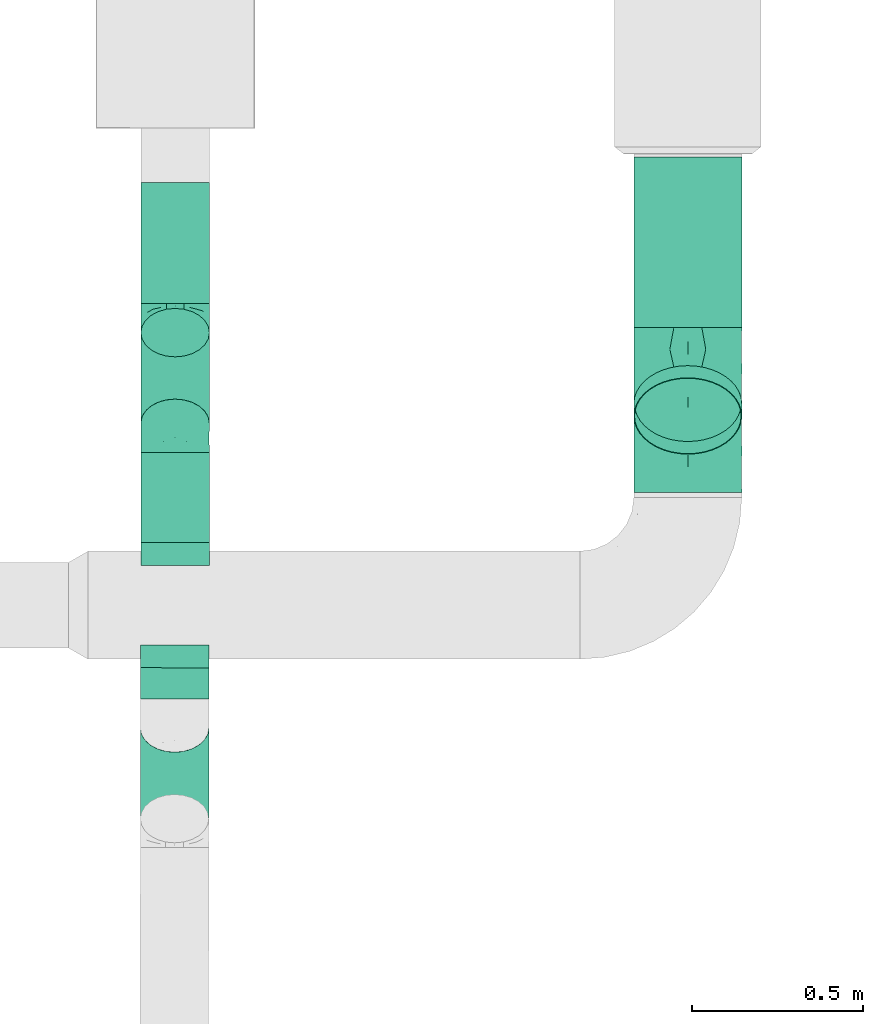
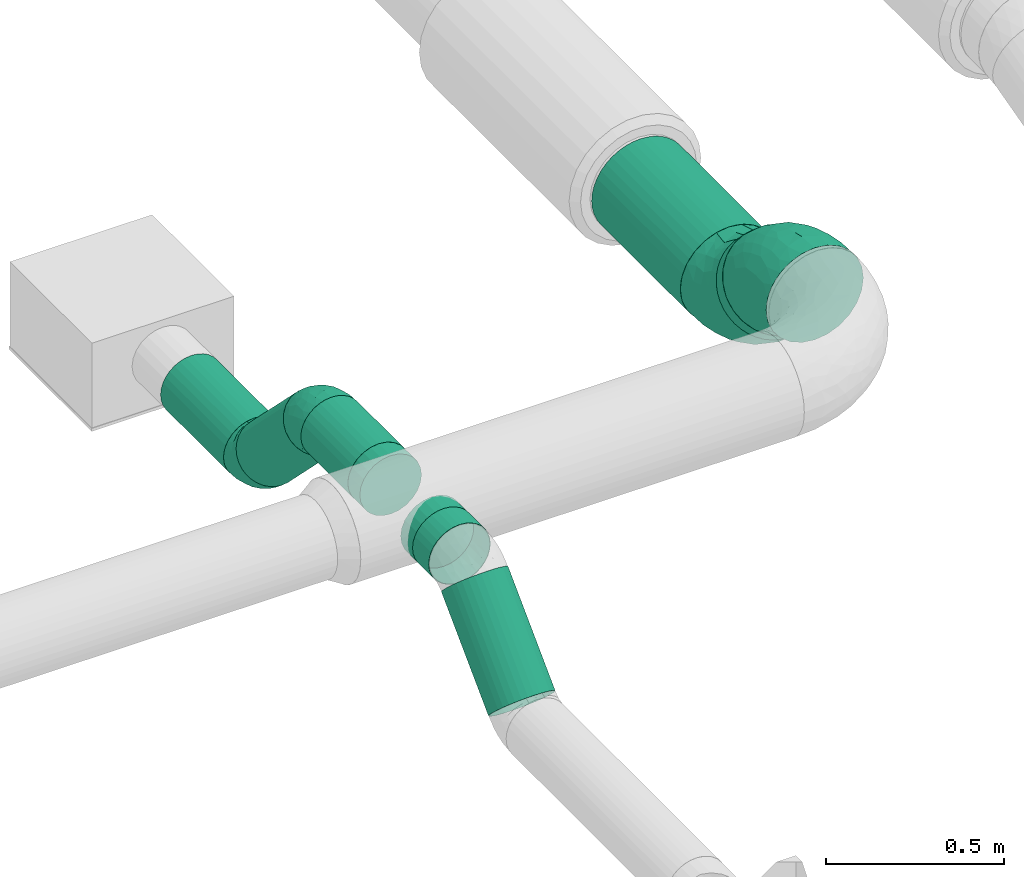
# One storey, part 9 of 63: 7 flow segments, 6 flow fittings.
"""IFC2X3 building model written with IfcOpenShell, lengths in millimetres."""

from ifc_helpers import new_model, entity, si_unit, converted_unit, derived_unit, direction, frame, origin_with_axes, origin_2d_with_axis, place, context, subcontext, project, spatial, hollow_circle, extrude, open_shell, surface_model, source, transform, mapped, type_object, element, save


model = new_model("IFC2X3")

# Units and contexts
model_context = context("Model", 3, precision=0.01, world=frame((0.0, 4.29681676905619e-09, 0.0)), true_north=direction((4.01073788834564e-13, 1.0)))
plan_context = context("Plan", 3, precision=0.01, world=frame((0.0, 4.29681676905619e-09, 0.0)), true_north=direction((4.01073788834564e-13, 1.0)))
body_context = subcontext(model_context, "Body", "Model", "MODEL_VIEW")
ifc_project = project(units=[converted_unit("PLANEANGLEUNIT", "DEGREE", entity("IfcPositiveLengthMeasure", 0.0174532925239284), si_unit("PLANEANGLEUNIT", "RADIAN"), dimensions=[0, 0, 0, 0, 0, 0, 0]), si_unit("AREAUNIT", "SQUARE_METRE"), si_unit("LENGTHUNIT", "METRE", prefix="MILLI"), si_unit("MASSUNIT", "GRAM", prefix="KILO"), si_unit("POWERUNIT", "WATT"), si_unit("PRESSUREUNIT", "PASCAL"), si_unit("FORCEUNIT", "NEWTON", prefix="KILO"), si_unit("ELECTRICVOLTAGEUNIT", "VOLT"), si_unit("ELECTRICCURRENTUNIT", "AMPERE"), si_unit("THERMODYNAMICTEMPERATUREUNIT", "DEGREE_CELSIUS"), si_unit("TIMEUNIT", "SECOND"), si_unit("VOLUMEUNIT", "CUBIC_METRE"), derived_unit("LINEARVELOCITYUNIT", [(si_unit("LENGTHUNIT", "METRE"), 1), (si_unit("TIMEUNIT", "SECOND"), -1)]), derived_unit("VOLUMETRICFLOWRATEUNIT", [(si_unit("VOLUMEUNIT", "CUBIC_METRE"), 1), (si_unit("TIMEUNIT", "SECOND"), -1)]), derived_unit("THERMALTRANSMITTANCEUNIT", [(si_unit("POWERUNIT", "WATT"), 1), (si_unit("THERMODYNAMICTEMPERATUREUNIT", "KELVIN"), -1), (si_unit("AREAUNIT", "SQUARE_METRE"), -1)]), derived_unit("SOUNDPRESSUREUNIT", [(si_unit("PRESSUREUNIT", "PASCAL"), 1)])], contexts=[model_context, plan_context])

# Site, building, storey
site_placement = place(None, frame((0.0, -4.29681676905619e-09, 0.0), z_axis=(0.0, 0.0, 1.0), x_axis=(1.0, 0.0, 0.0)))
site = spatial("IfcSite", under=ifc_project, at=site_placement, CompositionType="ELEMENT")
building_placement = place(site_placement, frame((0.0, 4.29681676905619e-09, 0.0), z_axis=(0.0, 0.0, 1.0), x_axis=(1.0, 0.0, 0.0)))
building = spatial("IfcBuilding", under=site, at=building_placement, Name="mc-building", CompositionType="ELEMENT")
storey_placement = place(building_placement, frame((0.0, 0.0, 210900.0), z_axis=(0.0, 0.0, 1.0), x_axis=(1.0, 0.0, 0.0)))
storey = spatial("IfcBuildingStorey", under=building, at=storey_placement, Name="Nivå F", CompositionType="ELEMENT", Elevation=210900.0)

# Flow fittings
duct_fitting_type_1 = type_object("IfcDuctFittingType", Name="magicirc_elbow_short_001", PredefinedType="BEND")
shared_shape_1 = source(origin_with_axes(), body_context, "Body", "SurfaceModel", [
    surface_model("IfcShellBasedSurfaceModel", [(-49.70563, 50.0, -86.60254), (-49.70563, 25.8819, -96.59259), (-49.70563, 70.71068, -70.71068), (-49.70563, 96.59259, -25.8819), (-49.70563, 86.60254, -50.0), (-49.70563, 86.60254, 50.0), (-49.70563, 96.59259, 25.8819), (-49.70563, 25.8819, 96.59259), (-49.70563, 50.0, 86.60254), (-49.70563, 70.71068, 70.71068), (-49.70563, -25.8819, 96.59259), (-49.70563, 0.0, 100.0), (-49.70563, 100.0, 0.0), (12.37742, -29.88175, 90.64522), (37.12404, -18.70607, 89.97421), (4.68854, -11.31914, 97.51858), (-15.97928, 38.57739, 94.78597), (-33.08073, 79.86395, 64.3352), (-38.64634, 93.30051, 41.23913), (-23.56301, 62.37217, 82.35825), (22.87885, -55.23445, 71.73393), (28.07272, 6.98114, 98.51039), (7.39001, 23.69873, 99.67584), (-26.09006, 96.38443, 50.0), (16.84592, 53.44845, 96.59259), (-33.15408, 103.44845, 25.8819), (-0.20815, 70.50252, 86.60254), (-49.70563, 0.0, -100.0), (-21.98306, 11.532, -99.67584), (4.68854, -11.31915, -97.51858), (6.95764, 23.32334, -99.68416), (-15.97928, 38.57738, -94.78597), (-0.20815, 70.50252, -86.60254), (16.84592, 53.44845, -96.59259), (60.35471, -50.93633, -55.32131), (28.49827, -69.68635, -52.39492), (22.87886, -55.23445, -71.73393), (28.07272, 6.98113, -98.51039), (-49.70565, -96.59259, -25.8819), (-49.70565, -100.0, 0.0), (-49.70565, -86.60254, -50.0), (-14.85282, 85.14719, -70.71068), (-26.09007, 96.38443, -50.0), (-33.1541, 103.44846, -25.8819), (-24.86597, -97.5535, 0.0), (-6.78576, -95.77276, 0.0), (-18.13184, -91.89202, 33.47276), (-13.02349, -39.47786, 89.97421), (-18.231, -62.02139, 76.22982), (-21.41192, 11.5723, 99.68416), (-49.70565, -86.60254, 50.0), (-49.70565, -96.59259, 25.8819), (22.49479, -82.45996, 31.38069), (50.71647, -68.4272, 35.42053), (29.12437, -69.42701, 52.3949), (13.84949, -89.51313, 0.0), (34.48473, -83.25349, 0.0), (12.37743, -29.88176, -90.64522), (-13.02349, -39.47786, -89.97421), (-42.05198, 101.52241, 0.0), (-35.56351, 105.85786, 0.0), (-38.64635, 93.30051, -41.23913), (37.12406, -18.70605, -89.97421), (1.72867, -92.12319, -18.52111), (-33.08075, 79.86395, -64.3352), (-27.44224, 60.76535, -82.35825), (-24.78683, -14.914, 98.51039), (-49.70565, -70.71068, -70.71068), (-6.65981, -78.69465, -55.32131), (-24.78683, -14.91401, -98.51039), (-49.70563, -50.0, -86.60254), (-49.70563, -25.8819, -96.59259), (-49.70563, -70.71068, 70.71068), (-49.70563, -50.0, 86.60254), (35.14719, 35.1472, -100.0), (103.44846, -33.15406, 25.8819), (96.38444, -26.09004, -50.0), (53.44846, 16.84593, -96.59259), (85.14719, -14.8528, -70.71068), (70.50253, -0.20814, -86.60254), (105.85787, -35.56347, 0.0), (103.44846, -33.15406, -25.8819), (-14.85282, 85.14719, 70.71068), (85.14719, -14.8528, 70.71068), (96.38444, -26.09004, 50.0), (70.50253, -0.20814, 86.60254), (53.44846, 16.84593, 96.59259), (35.14719, 35.1472, 100.0), (-6.6598, -78.69465, 55.32131), (42.49431, -77.9055, 18.20626), (72.51983, -62.9233, 0.0), (86.56365, -51.39784, 0.0), (63.91858, -66.36329, 18.52111), (77.79861, -52.15632, 33.47277), (60.35471, -50.93634, 55.32131), (56.74699, -30.96449, 76.22981), (53.50228, -73.08841, 0.0), (-18.13182, -91.89201, -33.47277), (77.79861, -52.15632, -33.47277), (-18.23098, -62.02139, -76.22982), (42.40177, -74.21421, -31.38069), (12.52339, -84.24729, -35.42053), (25.03951, -85.13552, -18.20627), (56.747, -30.96448, -76.22982)], [open_shell([[[0, 1, 2]], [[3, 4, 2]], [[5, 6, 7]], [[7, 8, 9]], [[5, 7, 9]], [[10, 11, 7]], [[6, 12, 3]], [[13, 14, 15]], [[8, 7, 16]], [[17, 5, 9]], [[6, 5, 18]], [[19, 8, 16]], [[13, 20, 14]], [[15, 21, 22]], [[17, 23, 18]], [[16, 22, 24]], [[25, 18, 23]], [[24, 26, 16]], [[26, 19, 16]], [[8, 19, 9]], [[19, 17, 9]], [[14, 21, 15]], [[6, 18, 25]], [[17, 18, 5]], [[27, 1, 28]], [[29, 28, 30]], [[31, 28, 1]], [[0, 31, 1]], [[32, 33, 31]], [[31, 33, 30]], [[30, 28, 31]], [[34, 35, 36]], [[30, 37, 29]], [[38, 39, 40]], [[41, 42, 43]], [[44, 45, 46]], [[47, 48, 20]], [[15, 22, 49]], [[46, 50, 51]], [[46, 51, 44]], [[52, 53, 54]], [[49, 22, 16]], [[51, 39, 44]], [[46, 55, 52]], [[15, 47, 13]], [[20, 13, 47]], [[55, 46, 45]], [[55, 56, 52]], [[57, 36, 58]], [[59, 60, 43]], [[43, 42, 61]], [[62, 57, 29]], [[45, 44, 63]], [[42, 41, 64]], [[65, 64, 41]], [[64, 61, 42]], [[55, 45, 63]], [[44, 39, 38]], [[36, 57, 62]], [[58, 29, 57]], [[15, 66, 47]], [[49, 66, 15]], [[67, 68, 40]], [[29, 69, 28]], [[58, 69, 29]], [[27, 67, 1]], [[40, 2, 1]], [[2, 40, 3]], [[70, 67, 71]], [[67, 27, 71]], [[40, 1, 67]], [[40, 39, 3]], [[39, 6, 3]], [[7, 6, 39]], [[10, 7, 39]], [[72, 73, 50]], [[51, 50, 73]], [[73, 10, 51]], [[51, 10, 39]], [[74, 75, 76]], [[41, 33, 32]], [[33, 75, 74]], [[33, 41, 75]], [[77, 78, 79]], [[77, 74, 78]], [[76, 80, 81]], [[78, 74, 76]], [[76, 75, 80]], [[41, 43, 23]], [[25, 23, 43]], [[23, 24, 41]], [[82, 26, 24]], [[82, 24, 23]], [[41, 24, 75]], [[75, 83, 84]], [[83, 75, 85]], [[75, 86, 85]], [[75, 24, 86]], [[24, 87, 86]], [[43, 60, 25]], [[88, 50, 46]], [[88, 52, 54]], [[73, 48, 47]], [[72, 50, 88]], [[66, 11, 10]], [[7, 11, 49]], [[10, 73, 47]], [[17, 19, 82]], [[16, 7, 49]], [[73, 72, 48]], [[56, 89, 52]], [[59, 6, 25]], [[90, 91, 92]], [[59, 12, 6]], [[53, 93, 94]], [[66, 49, 11]], [[88, 46, 52]], [[72, 88, 48]], [[86, 21, 14]], [[94, 84, 83]], [[85, 86, 14]], [[93, 84, 94]], [[83, 85, 95]], [[14, 95, 85]], [[93, 91, 75]], [[86, 87, 21]], [[53, 92, 93]], [[60, 59, 25]], [[87, 24, 22]], [[95, 20, 94]], [[82, 19, 26]], [[84, 93, 75]], [[20, 95, 14]], [[89, 96, 92]], [[94, 83, 95]], [[20, 48, 88]], [[82, 23, 17]], [[54, 94, 20]], [[94, 54, 53]], [[88, 54, 20]], [[47, 66, 10]], [[22, 21, 87]], [[92, 53, 89]], [[53, 52, 89]], [[96, 89, 56]], [[96, 90, 92]], [[93, 92, 91]], [[91, 80, 75]], [[78, 76, 34]], [[77, 79, 62]], [[69, 71, 27]], [[4, 61, 64]], [[32, 65, 41]], [[31, 0, 65]], [[0, 2, 65]], [[33, 74, 30]], [[61, 3, 43]], [[68, 97, 40]], [[98, 81, 91]], [[97, 44, 38]], [[99, 70, 58]], [[100, 101, 35]], [[99, 67, 70]], [[40, 97, 38]], [[101, 97, 68]], [[70, 71, 58]], [[102, 55, 63]], [[99, 36, 68]], [[56, 102, 100]], [[3, 12, 59]], [[68, 67, 99]], [[32, 31, 65]], [[34, 100, 35]], [[69, 58, 71]], [[4, 64, 2]], [[62, 29, 37]], [[36, 62, 103]], [[62, 79, 103]], [[98, 76, 81]], [[74, 77, 37]], [[98, 34, 76]], [[64, 65, 2]], [[98, 91, 90]], [[101, 63, 97]], [[100, 34, 98]], [[79, 78, 103]], [[37, 30, 74]], [[36, 103, 34]], [[43, 3, 59]], [[36, 99, 58]], [[78, 34, 103]], [[35, 68, 36]], [[97, 63, 44]], [[68, 35, 101]], [[28, 69, 27]], [[62, 37, 77]], [[63, 101, 102]], [[101, 100, 102]], [[98, 96, 100]], [[55, 102, 56]], [[3, 61, 4]], [[81, 80, 91]], [[96, 98, 90]], [[96, 56, 100]]])]),
])
for number, where, z_axis, x_axis, name in (
    (1, (526902.98628, 446405.40917, 3935.01183999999), (-0.999999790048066, 0.000647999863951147, 0.0), (-0.000647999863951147, -0.999999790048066, 0.0), "magicirc_elbow_short_001"),
    (2, (526902.75586, 446070.42116, 4270.0), (0.999999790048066, 3.79470760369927e-19, 0.000647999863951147), (-0.000458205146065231, -0.707106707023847, 0.707106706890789), "magicirc_elbow_short_001"),
):
    element("IfcFlowFitting", number, at=place(storey_placement, frame(where, z_axis=z_axis, x_axis=x_axis)), inside=storey, type_object=duct_fitting_type_1, Name=name, context=body_context, shape_type="MappedRepresentation", body=[
        mapped(shared_shape_1, transform((0.0, 0.0, 0.0), scale=1.0)),
    ])
duct_fitting_type_2 = type_object("IfcDuctFittingType", Name="magicirc_elbow_full_radius_001", PredefinedType="BEND")
shared_shape_2 = source(origin_with_axes(), body_context, "Body", "SurfaceModel", [
    surface_model("IfcShellBasedSurfaceModel", [(-130.47727, 78.75, -136.39901), (-130.47727, 40.764, -152.13332), (-130.47727, 0.0, -157.5), (-130.47727, 136.39901, -78.75), (-130.47727, -40.764, -152.13332), (-130.47727, 111.36932, -111.36932), (-130.47727, -157.5, 0.0), (-130.47727, -152.13332, 40.764), (-130.47727, -111.36932, -111.36932), (-130.47727, -152.13332, -40.764), (-130.47727, -78.75, -136.39901), (-130.47727, -136.39901, -78.75), (-130.47727, 152.13332, -40.764), (-130.47727, 157.5, 0.0), (-130.47727, 152.13332, 40.764), (-130.47727, 136.39901, 78.75), (-130.47727, 111.36932, 111.36932), (-130.47727, 78.75, 136.39901), (-130.47727, 40.764, 152.13332), (-130.47727, -111.36932, 111.36932), (-130.47727, -78.75, 136.39901), (-130.47727, -136.39901, 78.75), (-130.47727, 0.0, 157.5), (-130.47727, -40.764, 152.13332), (92.26137, 92.26137, -157.5), (63.43686, 121.08587, -152.13332), (36.57671, 147.94602, -136.39901), (121.08587, 63.43686, -152.13332), (-4.18729, 188.71003, -78.75), (13.51136, 171.01136, -111.36932), (13.51136, 171.01136, 111.36932), (203.63068, -19.10795, 0.0), (171.01136, 13.51136, -111.36932), (147.94602, 36.57671, -136.39901), (199.83586, -15.31314, -40.764), (188.71003, -4.18729, -78.75), (-15.31314, 199.83586, -40.764), (-19.10795, 203.63068, 0.0), (-15.31314, 199.83586, 40.764), (-4.18729, 188.71003, 78.75), (199.83586, -15.31314, 40.764), (36.57671, 147.94602, 136.39901), (63.43686, 121.08587, 152.13332), (188.71003, -4.18729, 78.75), (147.94602, 36.57671, 136.39901), (171.01136, 13.51136, 111.36932), (92.26137, 92.26137, 157.5), (121.08587, 63.43686, 152.13332), (-90.31824, -62.89797, 143.44996), (-72.27875, -23.25773, 154.94979), (-56.56199, -151.68274, 0.0), (-70.62575, -144.42219, 53.02885), (-91.264, -154.41385, 0.0), (-89.63351, -126.15228, 91.7184), (-69.33391, -97.41309, 120.07653), (-16.38997, -97.78481, 109.44527), (-40.47078, -60.22037, 140.65724), (-39.28412, -122.29161, 86.38044), (152.5836, -25.82267, 91.71841), (-81.87175, 17.75633, 156.89351), (67.55449, 34.66309, 154.94979), (45.33645, 70.44769, 156.89351), (19.44546, -106.17047, 85.82993), (-9.83286, -133.58825, 49.47276), (46.24417, -111.64335, 57.07322), (101.41402, -87.50829, 49.47275), (152.06186, -52.18197, 53.02885), (114.25128, -58.69516, 86.38044), (-3.65855, 130.02911, 128.74157), (-83.53697, 125.9293, 101.78766), (-89.35748, 94.53145, 128.74157), (-72.45165, 58.76305, 148.57173), (-42.27491, 102.06066, 132.90326), (-34.80211, 144.57687, 102.52932), (71.19939, -13.96507, 140.65724), (20.14269, -6.20589, 152.39698), (-29.92035, 72.23411, 148.58687), (9.6793, 92.78281, 148.57173), (-66.76397, 161.18248, 52.45275), (-89.71327, 162.86668, 0.0), (-51.72727, 178.601, 0.0), (115.64225, -86.63056, 0.0), (49.78325, -120.1874, 0.0), (84.03324, -106.00058, 0.0), (66.8953, -111.32944, 29.0342), (66.95497, -86.10086, 85.82994), (108.34022, 19.38906, 143.44996), (21.01822, -47.55911, 136.8648), (32.83795, -79.27786, 110.97397), (80.23571, -55.72758, 111.31288), (-99.24246, 146.38754, 64.87357), (173.72046, -44.65369, 0.0), (117.90794, -19.85497, 120.07653), (-11.3948, 27.50947, 157.45362), (-66.77072, 146.456, 81.42725), (-35.48483, 168.38694, 71.56288), (-24.4967, -27.0546, 151.48903), (-44.47795, 2.85402, 157.2553), (29.43256, 33.46875, 157.2553), (26.71905, -127.11627, 31.92385), (-20.51436, -143.02847, 0.0), (147.25126, -67.26053, 0.0), (15.53326, -134.3742, 0.0), (-89.35749, 94.53145, -128.74157), (31.41968, -126.02392, -29.0342), (13.53818, -108.22682, -85.82992), (-17.32987, -96.14058, -111.31287), (32.83796, -79.27786, -110.97396), (108.34022, 19.38906, -143.44996), (67.55449, 34.66308, -154.94979), (-72.45166, 58.76305, -148.57173), (9.67929, 92.78279, -148.57174), (-81.87176, 17.75632, -156.89351), (-66.76398, 161.18248, -52.45275), (-93.97599, 144.15911, -71.56287), (-77.62248, 126.84009, -102.52932), (-42.27492, 102.06066, -132.90325), (-40.47078, -60.22037, -140.65723), (-72.27875, -23.25774, -154.94979), (-9.85481, -18.63127, -152.39698), (-70.62574, -144.42219, -53.02885), (-89.63351, -126.15228, -91.7184), (-29.92036, 72.23411, -148.58687), (-44.47795, 2.85401, -157.2553), (-69.33391, -97.41309, -120.07653), (46.24419, -111.64335, -57.07321), (61.32383, -88.82388, -85.82992), (-90.31824, -62.89797, -143.44996), (152.06185, -52.18197, -53.02885), (101.41403, -87.50828, -49.47276), (114.25129, -58.69516, -86.38043), (18.76725, -48.49151, -136.86479), (-56.34601, 150.77405, -81.42725), (117.90794, -19.85498, -120.07653), (71.19939, -13.96508, -140.65723), (-9.83285, -133.58825, -49.47276), (-39.28411, -122.29161, -86.38043), (-29.97591, 148.11501, -101.78766), (-33.33661, 173.68664, -64.87357), (-3.65856, 130.02911, -128.74157), (152.5836, -25.82267, -91.7184), (45.33645, 70.44768, -156.89351), (80.73375, -57.55486, -109.44526), (-11.3948, 27.50946, -157.45362), (36.45227, -1.80872, -151.48903), (29.43256, 33.46875, -157.2553), (70.99154, -108.778, -31.92385)], [open_shell([[[0, 1, 2]], [[3, 0, 2]], [[4, 3, 2]], [[5, 0, 3]], [[3, 6, 7]], [[8, 9, 10]], [[4, 10, 6]], [[11, 9, 8]], [[6, 10, 9]], [[6, 3, 4]], [[7, 12, 3]], [[13, 7, 14]], [[15, 14, 16]], [[17, 16, 7]], [[7, 16, 14]], [[7, 18, 17]], [[19, 20, 21]], [[7, 21, 22]], [[23, 22, 20]], [[21, 20, 22]], [[22, 18, 7]], [[12, 7, 13]], [[24, 25, 26]], [[27, 24, 26]], [[26, 28, 27]], [[28, 26, 29]], [[28, 30, 31]], [[27, 32, 33]], [[32, 27, 34]], [[32, 34, 35]], [[34, 27, 31]], [[27, 28, 31]], [[28, 36, 37]], [[28, 38, 30]], [[30, 38, 39]], [[40, 30, 41]], [[30, 40, 31]], [[41, 42, 43]], [[43, 44, 45]], [[43, 40, 41]], [[44, 46, 47]], [[46, 44, 43]], [[42, 46, 43]], [[38, 28, 37]], [[48, 49, 23]], [[50, 51, 52]], [[19, 21, 53]], [[54, 55, 56]], [[53, 51, 57]], [[45, 58, 43]], [[54, 20, 19]], [[59, 22, 49]], [[60, 46, 61]], [[19, 53, 54]], [[23, 20, 48]], [[62, 63, 64]], [[65, 66, 67]], [[41, 30, 68]], [[16, 69, 15]], [[70, 71, 72]], [[21, 7, 51]], [[69, 72, 73]], [[18, 22, 59]], [[74, 60, 75]], [[72, 76, 77]], [[14, 78, 79]], [[76, 72, 71]], [[79, 13, 14]], [[80, 78, 38]], [[46, 42, 61]], [[70, 16, 17]], [[66, 65, 81]], [[82, 83, 84]], [[64, 85, 62]], [[47, 86, 44]], [[23, 49, 22]], [[87, 74, 75]], [[86, 60, 74]], [[43, 66, 40]], [[88, 85, 89]], [[14, 15, 90]], [[66, 91, 40]], [[17, 18, 71]], [[44, 92, 45]], [[60, 47, 46]], [[66, 43, 58]], [[85, 88, 62]], [[51, 63, 57]], [[59, 93, 71]], [[79, 78, 80]], [[78, 94, 95]], [[37, 80, 38]], [[49, 96, 97]], [[38, 78, 95]], [[90, 69, 94]], [[39, 73, 30]], [[48, 54, 56]], [[68, 73, 72]], [[98, 60, 61]], [[77, 42, 41]], [[41, 68, 77]], [[55, 57, 62]], [[51, 7, 52]], [[92, 67, 58]], [[99, 63, 100]], [[60, 98, 75]], [[86, 92, 44]], [[74, 87, 89]], [[85, 65, 67]], [[71, 93, 76]], [[69, 16, 70]], [[90, 94, 78]], [[42, 77, 61]], [[93, 61, 77]], [[97, 59, 49]], [[71, 18, 59]], [[75, 93, 97]], [[87, 88, 89]], [[71, 70, 17]], [[69, 70, 72]], [[73, 68, 30]], [[77, 68, 72]], [[65, 83, 81]], [[99, 84, 64]], [[82, 84, 99]], [[84, 83, 65]], [[96, 87, 75]], [[55, 87, 56]], [[60, 86, 47]], [[92, 86, 74]], [[54, 48, 20]], [[49, 48, 56]], [[51, 53, 21]], [[54, 53, 57]], [[92, 58, 45]], [[66, 58, 67]], [[69, 90, 15]], [[78, 14, 90]], [[69, 73, 94]], [[95, 73, 39]], [[73, 95, 94]], [[38, 95, 39]], [[7, 6, 52]], [[91, 66, 101]], [[91, 31, 40]], [[93, 77, 76]], [[63, 99, 64]], [[101, 66, 81]], [[65, 64, 84]], [[51, 100, 63]], [[82, 99, 102]], [[65, 85, 64]], [[89, 67, 92]], [[67, 89, 85]], [[74, 89, 92]], [[55, 62, 88]], [[63, 62, 57]], [[55, 88, 87]], [[54, 57, 55]], [[61, 93, 98]], [[75, 98, 93]], [[49, 56, 96]], [[93, 59, 97]], [[87, 96, 56]], [[75, 97, 96]], [[100, 51, 50]], [[102, 99, 100]], [[103, 0, 5]], [[104, 82, 102]], [[105, 106, 107]], [[108, 109, 27]], [[0, 103, 110]], [[26, 25, 111]], [[13, 79, 12]], [[2, 1, 112]], [[12, 79, 113]], [[12, 113, 114]], [[115, 116, 103]], [[27, 109, 24]], [[117, 118, 119]], [[1, 0, 110]], [[120, 11, 121]], [[116, 122, 110]], [[120, 52, 9]], [[118, 123, 119]], [[124, 8, 10]], [[125, 105, 126]], [[127, 10, 4]], [[128, 129, 130]], [[117, 131, 106]], [[120, 9, 11]], [[118, 117, 127]], [[8, 121, 11]], [[113, 132, 114]], [[122, 116, 111]], [[79, 80, 113]], [[108, 133, 134]], [[80, 37, 36]], [[135, 120, 136]], [[29, 137, 28]], [[28, 138, 36]], [[118, 4, 2]], [[115, 137, 116]], [[139, 29, 26]], [[140, 32, 35]], [[112, 118, 2]], [[25, 24, 141]], [[3, 115, 5]], [[111, 116, 139]], [[35, 34, 128]], [[108, 27, 33]], [[133, 33, 32]], [[131, 117, 119]], [[138, 137, 132]], [[129, 125, 126]], [[10, 127, 124]], [[32, 140, 133]], [[130, 140, 128]], [[141, 24, 109]], [[128, 91, 101]], [[121, 124, 136]], [[123, 118, 112]], [[134, 133, 142]], [[120, 135, 100]], [[105, 107, 126]], [[141, 143, 111]], [[113, 80, 36]], [[142, 130, 126]], [[109, 144, 145]], [[128, 34, 91]], [[146, 129, 81]], [[105, 135, 136]], [[34, 31, 91]], [[137, 29, 139]], [[138, 132, 113]], [[1, 110, 112]], [[143, 112, 110]], [[145, 141, 109]], [[111, 25, 141]], [[119, 143, 145]], [[131, 107, 106]], [[115, 103, 5]], [[110, 103, 116]], [[111, 139, 26]], [[137, 139, 116]], [[135, 102, 100]], [[146, 104, 125]], [[82, 104, 146]], [[104, 102, 135]], [[144, 131, 119]], [[142, 131, 134]], [[118, 127, 4]], [[124, 127, 117]], [[133, 108, 33]], [[109, 108, 134]], [[128, 140, 35]], [[133, 140, 130]], [[124, 121, 8]], [[120, 121, 136]], [[137, 138, 28]], [[113, 36, 138]], [[137, 115, 132]], [[114, 115, 3]], [[115, 114, 132]], [[12, 114, 3]], [[52, 120, 50]], [[52, 6, 9]], [[111, 143, 122]], [[143, 110, 122]], [[104, 135, 125]], [[120, 100, 50]], [[125, 129, 146]], [[128, 81, 129]], [[82, 146, 83]], [[135, 105, 125]], [[106, 136, 124]], [[136, 106, 105]], [[117, 106, 124]], [[142, 126, 107]], [[129, 126, 130]], [[142, 107, 131]], [[133, 130, 142]], [[112, 143, 123]], [[119, 123, 143]], [[109, 134, 144]], [[143, 141, 145]], [[131, 144, 134]], [[119, 145, 144]], [[81, 128, 101]], [[83, 146, 81]]])]),
])
for number, where, z_axis, x_axis, name in (
    (3, (528399.04312, 446254.81006, 4050.0), (-1.0, 0.0, 0.0), (0.0, -1.0, 0.0), "magicirc_elbow_full_radius_001"),
    (4, (528399.04312, 446034.81006, 4270.0), (1.0, 0.0, 0.0), (0.0, -0.707106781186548, 0.707106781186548), "magicirc_elbow_full_radius_001"),
):
    element("IfcFlowFitting", number, at=place(storey_placement, frame(where, z_axis=z_axis, x_axis=x_axis)), inside=storey, type_object=duct_fitting_type_2, Name=name, context=body_context, shape_type="MappedRepresentation", body=[
        mapped(shared_shape_2, transform((0.0, 0.0, 0.0), scale=1.0)),
    ])
duct_fitting_type_3 = type_object("IfcDuctFittingType", Name="magicirc_tapoutlet_001", PredefinedType="CONNECTOR")
shared_shape_3 = source(origin_with_axes(), body_context, "Body", "SurfaceModel", [
    surface_model("IfcShellBasedSurfaceModel", [(25.0, 0.0, -100.0), (25.0, -50.0, -86.60254), (25.0, -25.8819, -96.59259), (25.0, -100.0, 0.0), (25.0, -96.59259, -25.8819), (25.0, -96.59259, 25.8819), (25.0, 25.8819, -96.59259), (25.0, 100.0, 0.0), (25.0, 50.0, -86.60254), (25.0, 70.71068, -70.71068), (25.0, 86.60254, -50.0), (25.0, -70.71068, -70.71068), (25.0, -86.60254, -50.0), (25.0, 96.59259, -25.8819), (25.0, 96.59259, 25.8819), (25.0, 86.60254, 50.0), (25.0, 70.71068, 70.71068), (25.0, 25.8819, 96.59259), (25.0, 50.0, 86.60254), (25.0, -25.8819, 96.59259), (25.0, -70.71068, 70.71068), (25.0, -86.60254, 50.0), (25.0, -50.0, 86.60254), (25.0, 0.0, 100.0), (0.0, 0.0, 100.0), (0.0, 25.8819, 96.59259), (0.0, 50.0, 86.60254), (0.0, 70.71068, 70.71068), (0.0, 86.60254, 50.0), (0.0, 96.59259, 25.8819), (0.0, 100.0, 0.0), (0.0, 96.59259, -25.8819), (0.0, 86.60254, -50.0), (0.0, 70.71068, -70.71068), (0.0, 25.8819, -96.59259), (0.0, 50.0, -86.60254), (0.0, 0.0, -100.0), (0.0, -25.8819, -96.59259), (0.0, -50.0, -86.60254), (0.0, -70.71068, -70.71068), (0.0, -86.60254, -50.0), (0.0, -96.59259, -25.8819), (0.0, -100.0, 0.0), (0.0, -96.59259, 25.8819), (0.0, -86.60254, 50.0), (0.0, -70.71068, 70.71068), (0.0, -50.0, 86.60254), (0.0, -25.8819, 96.59259), (-41.9151, 0.0, -100.0), (-41.9151, -25.8819, -96.59259), (-41.9151, 25.8819, -96.59259), (-41.9151, 96.59259, 25.8819), (-41.9151, 50.0, -86.60254), (-41.9151, 86.60254, -50.0), (-41.9151, 70.71068, -70.71068), (-41.9151, -100.0, 0.0), (-41.9151, -96.59259, 25.8819), (-41.9151, -70.71068, -70.71068), (-41.9151, -50.0, -86.60254), (-41.9151, -96.59259, -25.8819), (-41.9151, -86.60254, -50.0), (-41.9151, 96.59259, -25.8819), (-41.9151, 86.60254, 50.0), (-41.9151, 70.71068, 70.71068), (-41.9151, 50.0, 86.60254), (-41.9151, 25.8819, 96.59259), (-41.9151, 0.0, 100.0), (-41.9151, -86.60254, 50.0), (-41.9151, -70.71068, 70.71068), (-41.9151, -25.8819, 96.59259), (-41.9151, -50.0, 86.60254), (-41.9151, 100.0, 0.0)], [open_shell([[[0, 1, 2]], [[3, 4, 5]], [[6, 7, 0]], [[8, 7, 6]], [[7, 9, 10]], [[7, 8, 9]], [[11, 0, 5]], [[0, 11, 1]], [[12, 5, 4]], [[5, 12, 11]], [[7, 10, 13]], [[14, 15, 0]], [[15, 16, 0]], [[17, 0, 18]], [[0, 16, 18]], [[0, 17, 19]], [[0, 20, 21]], [[5, 0, 21]], [[0, 22, 20]], [[19, 22, 0]], [[17, 23, 19]], [[14, 0, 7]], [[24, 23, 17]], [[25, 17, 18]], [[24, 17, 25]], [[26, 16, 27]], [[26, 25, 18]], [[16, 26, 18]], [[28, 15, 14]], [[29, 14, 7]], [[27, 15, 28]], [[29, 28, 14]], [[30, 29, 7]], [[15, 27, 16]], [[30, 7, 13]], [[31, 13, 10]], [[30, 13, 31]], [[32, 9, 33]], [[32, 31, 10]], [[9, 32, 10]], [[6, 0, 34]], [[8, 6, 35]], [[33, 8, 35]], [[36, 34, 0]], [[6, 34, 35]], [[8, 33, 9]], [[36, 0, 2]], [[37, 2, 1]], [[36, 2, 37]], [[38, 11, 39]], [[38, 37, 1]], [[11, 38, 1]], [[40, 12, 4]], [[41, 4, 3]], [[39, 12, 40]], [[41, 40, 4]], [[42, 41, 3]], [[12, 39, 11]], [[42, 3, 5]], [[43, 5, 21]], [[42, 5, 43]], [[44, 20, 45]], [[44, 43, 21]], [[20, 44, 21]], [[46, 22, 19]], [[47, 19, 23]], [[45, 22, 46]], [[47, 46, 19]], [[24, 47, 23]], [[22, 45, 20]], [[15, 0, 14]], [[0, 15, 18]], [[18, 15, 16]], [[19, 0, 17]], [[0, 21, 5]], [[20, 21, 0]], [[20, 0, 22]], [[48, 49, 50]], [[50, 51, 52]], [[53, 54, 51]], [[51, 54, 52]], [[50, 55, 56]], [[57, 55, 58]], [[50, 49, 58]], [[59, 55, 60]], [[57, 60, 55]], [[58, 55, 50]], [[61, 53, 51]], [[62, 51, 50]], [[50, 63, 62]], [[64, 50, 65]], [[64, 63, 50]], [[66, 65, 50]], [[67, 68, 50]], [[50, 56, 67]], [[69, 66, 70]], [[50, 68, 70]], [[70, 66, 50]], [[71, 61, 51]], [[66, 24, 25]], [[65, 25, 26]], [[66, 25, 65]], [[64, 27, 63]], [[64, 65, 26]], [[27, 64, 26]], [[62, 28, 29]], [[51, 29, 30]], [[63, 28, 62]], [[51, 62, 29]], [[71, 51, 30]], [[28, 63, 27]], [[71, 30, 31]], [[61, 31, 32]], [[71, 31, 61]], [[53, 33, 54]], [[53, 61, 32]], [[33, 53, 32]], [[34, 36, 48]], [[35, 34, 52]], [[52, 54, 35]], [[48, 50, 34]], [[52, 34, 50]], [[35, 54, 33]], [[48, 36, 37]], [[49, 37, 38]], [[48, 37, 49]], [[58, 39, 57]], [[58, 49, 38]], [[39, 58, 38]], [[60, 40, 41]], [[59, 41, 42]], [[57, 40, 60]], [[59, 60, 41]], [[55, 59, 42]], [[40, 57, 39]], [[55, 42, 43]], [[56, 43, 44]], [[55, 43, 56]], [[67, 45, 68]], [[67, 56, 44]], [[45, 67, 44]], [[70, 46, 47]], [[69, 47, 24]], [[68, 46, 70]], [[69, 70, 47]], [[66, 69, 24]], [[46, 68, 45]]])]),
])
for number, where, z_axis, x_axis, name in (
    (5, (526901.53748, 445417.3646, 4269.99999000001), (0.0, 0.0, 1.0), (-0.000423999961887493, -0.999999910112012, 0.0), "magicirc_tapoutlet_001"),
    (6, (526902.75586, 445732.36462, 4270.0), (0.0, 0.0, -1.0), (0.0, 1.0, 0.0), "magicirc_tapoutlet_001"),
):
    element("IfcFlowFitting", number, at=place(storey_placement, frame(where, z_axis=z_axis, x_axis=x_axis)), inside=storey, type_object=duct_fitting_type_3, Name=name, context=body_context, shape_type="MappedRepresentation", body=[
        mapped(shared_shape_3, transform((0.0, 0.0, 0.0), scale=1.0)),
    ])

# Flow segments
duct_segment_type_1 = type_object("IfcDuctSegmentType", Name="KK002T - Spiro kanaler, Forsinket stål, korte bend", PredefinedType="RIGIDSEGMENT")
shared_shape_4 = source(origin_with_axes(), body_context, "Body", "SweptSolid", [
    extrude(hollow_circle(Radius=100.0, WallThickness=2.0, at=origin_2d_with_axis()), frame((0.0, 0.0, 0.0), z_axis=(1.0, 0.0, 0.0), x_axis=(0.0, 1.0, 0.0)), (0.0, 0.0, 1.0), 374.3),
])
for number, where, z_axis, x_axis in (
    (7, (526902.96351, 446370.26198, 3970.15904), (0.00045799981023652, 0.707106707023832, 0.707106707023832), (-0.000493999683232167, -0.707106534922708, 0.707106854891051)),
    (8, (526901.29934, 444952.10465, 3970.15906999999), (0.0, -0.707106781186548, 0.707106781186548), (0.000387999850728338, 0.707106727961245, 0.707106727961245)),
):
    element("IfcFlowSegment", number, at=place(storey_placement, frame(where, z_axis=z_axis, x_axis=x_axis)), inside=storey, type_object=duct_segment_type_1, Name="KK002T - Spiro kanaler, Forsinket stål, korte bend", context=body_context, shape_type="MappedRepresentation", body=[
        mapped(shared_shape_4, transform((0.0, 0.0, 0.0), scale=1.0)),
    ])
shared_shape_5 = source(origin_with_axes(), body_context, "Body", "SweptSolid", [
    extrude(hollow_circle(Radius=100.0, WallThickness=2.0, at=origin_2d_with_axis()), frame((0.0, 0.0, 0.0), z_axis=(1.0, 0.0, 0.0), x_axis=(0.0, 1.0, 0.0)), (0.0, 0.0, 1.0), 352.9),
])
flow_segment_1_placement = place(storey_placement, frame((526903.24709, 446808.06143, 3935.01183999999), z_axis=(0.0, 0.0, 1.0), x_axis=(-0.000647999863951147, -0.999999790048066, 0.0)))
element("IfcFlowSegment", 9, at=flow_segment_1_placement, inside=storey, type_object=duct_segment_type_1, Name="KK002T - Spiro kanaler, Forsinket stål, korte bend", context=body_context, shape_type="MappedRepresentation", body=[
    mapped(shared_shape_5, transform((0.0, 0.0, 0.0), scale=1.0)),
])
shared_shape_6 = source(origin_with_axes(), body_context, "Body", "SweptSolid", [
    extrude(hollow_circle(Radius=100.0, WallThickness=2.0, at=origin_2d_with_axis()), frame((0.0, 0.0, 0.0), z_axis=(1.0, 0.0, 0.0), x_axis=(0.0, 1.0, 0.0)), (0.0, 0.0, 1.0), 90.7),
])
flow_segment_2_placement = place(storey_placement, frame((526901.52689, 445392.3646, 4269.99999000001), z_axis=(0.0, 0.0, 1.0), x_axis=(-0.000423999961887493, -0.999999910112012, 0.0)))
element("IfcFlowSegment", 10, at=flow_segment_2_placement, inside=storey, type_object=duct_segment_type_1, Name="KK002T - Spiro kanaler, Forsinket stål, korte bend", context=body_context, shape_type="MappedRepresentation", body=[
    mapped(shared_shape_6, transform((0.0, 0.0, 0.0), scale=1.0)),
])
shared_shape_7 = source(origin_with_axes(), body_context, "Body", "SweptSolid", [
    extrude(hollow_circle(Radius=100.0, WallThickness=2.0, at=origin_2d_with_axis()), frame((0.0, 0.0, 0.0), z_axis=(1.0, 0.0, 0.0), x_axis=(0.0, 1.0, 0.0)), (0.0, 0.0, 1.0), 263.4),
])
flow_segment_3_placement = place(storey_placement, frame((526902.75586, 445757.36462, 4270.0), z_axis=(0.0, 0.0, 1.0), x_axis=(0.0, 1.0, 0.0)))
element("IfcFlowSegment", 11, at=flow_segment_3_placement, inside=storey, type_object=duct_segment_type_1, Name="KK002T - Spiro kanaler, Forsinket stål, korte bend", context=body_context, shape_type="MappedRepresentation", body=[
    mapped(shared_shape_7, transform((0.0, 0.0, 0.0), scale=1.0)),
])
duct_segment_type_2 = type_object("IfcDuctSegmentType", Name="Sirkulær kanal", PredefinedType="RIGIDSEGMENT")
shared_shape_8 = source(origin_with_axes(), body_context, "Body", "SweptSolid", [
    extrude(hollow_circle(Radius=157.5, WallThickness=2.0, at=origin_2d_with_axis()), frame((0.0, 0.0, 0.0), z_axis=(1.0, 0.0, 0.0), x_axis=(0.0, 1.0, 0.0)), (0.0, 0.0, 1.0), 497.1),
])
flow_segment_4_placement = place(storey_placement, frame((528399.04312, 446882.40275, 4050.0), z_axis=(0.0, 0.0, 1.0), x_axis=(0.0, -1.0, 0.0)))
element("IfcFlowSegment", 12, at=flow_segment_4_placement, inside=storey, type_object=duct_segment_type_2, Name="Sirkulær kanal", context=body_context, shape_type="MappedRepresentation", body=[
    mapped(shared_shape_8, transform((0.0, 0.0, 0.0), scale=1.0)),
])
shared_shape_9 = source(origin_with_axes(), body_context, "Body", "SweptSolid", [
    extrude(hollow_circle(Radius=157.5, WallThickness=2.0, at=origin_2d_with_axis()), frame((0.0, 0.0, 0.0), z_axis=(1.0, 0.0, 0.0), x_axis=(0.0, 1.0, 0.0)), (0.0, 0.0, 1.0), 50.2),
])
flow_segment_5_placement = place(storey_placement, frame((528399.04312, 446162.5487, 4142.26136), z_axis=(0.0, 0.707106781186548, 0.707106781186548), x_axis=(0.0, -0.707106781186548, 0.707106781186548)))
element("IfcFlowSegment", 13, at=flow_segment_5_placement, inside=storey, type_object=duct_segment_type_2, Name="Sirkulær kanal", context=body_context, shape_type="MappedRepresentation", body=[
    mapped(shared_shape_9, transform((0.0, 0.0, 0.0), scale=1.0)),
])

save(model, "model.ifc")
